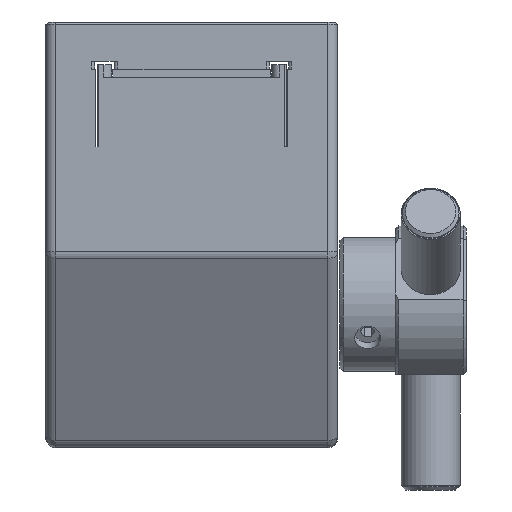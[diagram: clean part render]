
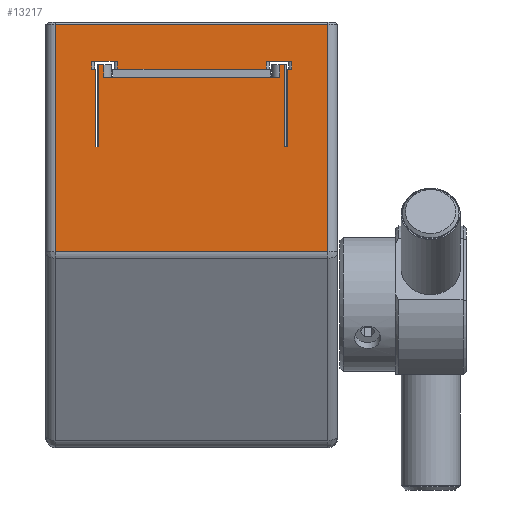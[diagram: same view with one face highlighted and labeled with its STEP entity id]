
A CAD part, left-side view. The second image highlights one B-rep face of the part: STEP entity #13217.
In plain terms, the highlighted planar face has unit normal (-1, 0, 0).
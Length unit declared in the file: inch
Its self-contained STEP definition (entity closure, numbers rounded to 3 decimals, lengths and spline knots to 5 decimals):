
#3293=CARTESIAN_POINT('',(-20.43573,78.2955,85.63033));
#3294=VERTEX_POINT('',#3293);
#3359=CARTESIAN_POINT('',(-20.43573,76.5705,85.63033));
#3360=VERTEX_POINT('',#3359);
#3376=CARTESIAN_POINT('',(-20.43573,78.2955,85.63033));
#3377=DIRECTION('',(0.0,-1.0,0.0));
#3378=VECTOR('',#3377,1.725);
#3379=LINE('',#3376,#3378);
#3380=EDGE_CURVE('',#3294,#3360,#3379,.T.);
#3598=CARTESIAN_POINT('',(-20.43573,78.068,85.34533));
#3599=VERTEX_POINT('',#3598);
#3608=CARTESIAN_POINT('',(-20.43573,78.068,85.39533));
#3609=VERTEX_POINT('',#3608);
#3617=CARTESIAN_POINT('',(-20.43573,78.068,85.39533));
#3618=DIRECTION('',(0.0,0.0,-1.0));
#3619=VECTOR('',#3618,0.05);
#3620=LINE('',#3617,#3619);
#3621=EDGE_CURVE('',#3609,#3599,#3620,.T.);
#3633=CARTESIAN_POINT('',(-20.43573,77.9055,85.34533));
#3634=VERTEX_POINT('',#3633);
#3642=CARTESIAN_POINT('',(-20.43573,77.9055,85.39533));
#3643=VERTEX_POINT('',#3642);
#3644=CARTESIAN_POINT('',(-20.43573,77.9055,85.34533));
#3645=DIRECTION('',(0.0,0.0,1.0));
#3646=VECTOR('',#3645,0.05);
#3647=LINE('',#3644,#3646);
#3648=EDGE_CURVE('',#3634,#3643,#3647,.T.);
#3695=CARTESIAN_POINT('',(-20.43573,76.798,85.34533));
#3696=VERTEX_POINT('',#3695);
#3706=CARTESIAN_POINT('',(-20.43573,76.798,85.39533));
#3707=VERTEX_POINT('',#3706);
#3708=CARTESIAN_POINT('',(-20.43573,76.798,85.34533));
#3709=DIRECTION('',(0.0,0.0,1.0));
#3710=VECTOR('',#3709,0.05);
#3711=LINE('',#3708,#3710);
#3712=EDGE_CURVE('',#3696,#3707,#3711,.T.);
#3768=CARTESIAN_POINT('',(-20.43573,76.9605,85.34533));
#3769=VERTEX_POINT('',#3768);
#3787=CARTESIAN_POINT('',(-20.43573,76.9605,85.39533));
#3788=VERTEX_POINT('',#3787);
#3796=CARTESIAN_POINT('',(-20.43573,76.9605,85.39533));
#3797=DIRECTION('',(0.0,0.0,-1.0));
#3798=VECTOR('',#3797,0.05);
#3799=LINE('',#3796,#3798);
#3800=EDGE_CURVE('',#3788,#3769,#3799,.T.);
#3907=CARTESIAN_POINT('',(-20.43573,77.9055,85.39533));
#3908=DIRECTION('',(0.0,1.0,0.0));
#3909=VECTOR('',#3908,0.1625);
#3910=LINE('',#3907,#3909);
#3911=EDGE_CURVE('',#3643,#3609,#3910,.T.);
#3942=CARTESIAN_POINT('',(-20.43573,76.798,85.39533));
#3943=DIRECTION('',(0.0,1.0,0.0));
#3944=VECTOR('',#3943,0.1625);
#3945=LINE('',#3942,#3944);
#3946=EDGE_CURVE('',#3707,#3788,#3945,.T.);
#3969=CARTESIAN_POINT('',(-20.43573,77.9055,85.34533));
#3970=DIRECTION('',(0.0,-1.0,0.0));
#3971=VECTOR('',#3970,0.945);
#3972=LINE('',#3969,#3971);
#3973=EDGE_CURVE('',#3634,#3769,#3972,.T.);
#4091=CARTESIAN_POINT('',(-20.43573,76.8255,85.34533));
#4092=VERTEX_POINT('',#4091);
#4099=CARTESIAN_POINT('',(-20.43573,76.798,85.34533));
#4100=DIRECTION('',(0.0,1.0,0.0));
#4101=VECTOR('',#4100,0.0275);
#4102=LINE('',#4099,#4101);
#4103=EDGE_CURVE('',#3696,#4092,#4102,.T.);
#11225=CARTESIAN_POINT('',(-20.43573,76.843,84.85533));
#11226=VERTEX_POINT('',#11225);
#11234=CARTESIAN_POINT('',(-20.43573,76.8255,84.85533));
#11235=VERTEX_POINT('',#11234);
#11236=CARTESIAN_POINT('',(-20.43573,76.843,84.85533));
#11237=DIRECTION('',(0.0,-1.0,0.0));
#11238=VECTOR('',#11237,0.0175);
#11239=LINE('',#11236,#11238);
#11240=EDGE_CURVE('',#11226,#11235,#11239,.T.);
#11399=CARTESIAN_POINT('',(-20.43573,78.023,84.85533));
#11400=VERTEX_POINT('',#11399);
#11553=CARTESIAN_POINT('',(-20.43573,78.0405,84.85533));
#11554=VERTEX_POINT('',#11553);
#11561=CARTESIAN_POINT('',(-20.43573,78.0405,84.85533));
#11562=DIRECTION('',(0.0,-1.0,0.0));
#11563=VECTOR('',#11562,0.0175);
#11564=LINE('',#11561,#11563);
#11565=EDGE_CURVE('',#11554,#11400,#11564,.T.);
#11598=CARTESIAN_POINT('',(-20.43573,76.8255,85.34533));
#11599=DIRECTION('',(0.0,0.0,-1.0));
#11600=VECTOR('',#11599,0.49);
#11601=LINE('',#11598,#11600);
#11602=EDGE_CURVE('',#4092,#11235,#11601,.T.);
#11692=CARTESIAN_POINT('',(-20.43573,78.0405,85.34533));
#11693=VERTEX_POINT('',#11692);
#11700=CARTESIAN_POINT('',(-20.43573,78.0405,84.85533));
#11701=DIRECTION('',(0.0,0.0,1.0));
#11702=VECTOR('',#11701,0.49);
#11703=LINE('',#11700,#11702);
#11704=EDGE_CURVE('',#11554,#11693,#11703,.T.);
#11717=CARTESIAN_POINT('',(-20.43573,78.0405,85.34533));
#11718=DIRECTION('',(0.0,1.0,0.0));
#11719=VECTOR('',#11718,0.0275);
#11720=LINE('',#11717,#11719);
#11721=EDGE_CURVE('',#11693,#3599,#11720,.T.);
#11743=CARTESIAN_POINT('',(-20.43573,78.2955,84.19024));
#11744=VERTEX_POINT('',#11743);
#11752=CARTESIAN_POINT('',(-20.43573,78.2955,84.19024));
#11753=DIRECTION('',(0.0,0.0,1.0));
#11754=VECTOR('',#11753,1.44009);
#11755=LINE('',#11752,#11754);
#11756=EDGE_CURVE('',#11744,#3294,#11755,.T.);
#12071=CARTESIAN_POINT('',(-20.43573,76.5705,84.19024));
#12072=VERTEX_POINT('',#12071);
#12073=CARTESIAN_POINT('',(-20.43573,76.5705,85.63033));
#12074=DIRECTION('',(0.0,0.0,-1.0));
#12075=VECTOR('',#12074,1.44009);
#12076=LINE('',#12073,#12075);
#12077=EDGE_CURVE('',#3360,#12072,#12076,.T.);
#12528=CARTESIAN_POINT('',(-20.43573,76.5705,84.19024));
#12529=DIRECTION('',(0.0,1.0,0.0));
#12530=VECTOR('',#12529,1.725);
#12531=LINE('',#12528,#12530);
#12532=EDGE_CURVE('',#12072,#11744,#12531,.T.);
#12839=CARTESIAN_POINT('',(-20.43573,76.843,85.37533));
#12840=VERTEX_POINT('',#12839);
#12841=CARTESIAN_POINT('',(-20.43573,76.8755,85.37533));
#12842=VERTEX_POINT('',#12841);
#12843=CARTESIAN_POINT('',(-20.43573,76.843,85.37533));
#12844=DIRECTION('',(0.0,1.0,0.0));
#12845=VECTOR('',#12844,0.0325);
#12846=LINE('',#12843,#12845);
#12847=EDGE_CURVE('',#12840,#12842,#12846,.T.);
#12925=CARTESIAN_POINT('',(-20.43573,78.023,85.37533));
#12926=VERTEX_POINT('',#12925);
#12934=CARTESIAN_POINT('',(-20.43573,77.9905,85.37533));
#12935=VERTEX_POINT('',#12934);
#12936=CARTESIAN_POINT('',(-20.43573,77.9905,85.37533));
#12937=DIRECTION('',(0.0,1.0,0.0));
#12938=VECTOR('',#12937,0.0325);
#12939=LINE('',#12936,#12938);
#12940=EDGE_CURVE('',#12935,#12926,#12939,.T.);
#13143=CARTESIAN_POINT('',(-20.43573,76.843,84.85533));
#13144=DIRECTION('',(0.0,0.0,1.0));
#13145=VECTOR('',#13144,0.52);
#13146=LINE('',#13143,#13145);
#13147=EDGE_CURVE('',#11226,#12840,#13146,.T.);
#13160=CARTESIAN_POINT('',(-20.43573,77.433,85.18533));
#13161=DIRECTION('',(1.0,0.0,0.0));
#13162=DIRECTION('',(0.0,-1.0,0.0));
#13163=AXIS2_PLACEMENT_3D('',#13160,#13161,#13162);
#13164=PLANE('',#13163);
#13165=ORIENTED_EDGE('',*,*,#11756,.F.);
#13166=ORIENTED_EDGE('',*,*,#12532,.F.);
#13167=ORIENTED_EDGE('',*,*,#12077,.F.);
#13168=ORIENTED_EDGE('',*,*,#3380,.F.);
#13169=EDGE_LOOP('',(#13165,#13166,#13167,#13168));
#13170=FACE_OUTER_BOUND('',#13169,.T.);
#13171=ORIENTED_EDGE('',*,*,#3621,.F.);
#13172=ORIENTED_EDGE('',*,*,#3911,.F.);
#13173=ORIENTED_EDGE('',*,*,#3648,.F.);
#13174=ORIENTED_EDGE('',*,*,#3973,.T.);
#13175=ORIENTED_EDGE('',*,*,#3800,.F.);
#13176=ORIENTED_EDGE('',*,*,#3946,.F.);
#13177=ORIENTED_EDGE('',*,*,#3712,.F.);
#13178=ORIENTED_EDGE('',*,*,#4103,.T.);
#13179=ORIENTED_EDGE('',*,*,#11602,.T.);
#13180=ORIENTED_EDGE('',*,*,#11240,.F.);
#13181=ORIENTED_EDGE('',*,*,#13147,.T.);
#13182=ORIENTED_EDGE('',*,*,#12847,.T.);
#13183=CARTESIAN_POINT('',(-20.43573,76.8755,85.29533));
#13184=VERTEX_POINT('',#13183);
#13185=CARTESIAN_POINT('',(-20.43573,76.8755,85.29533));
#13186=DIRECTION('',(0.0,0.0,1.0));
#13187=VECTOR('',#13186,0.08);
#13188=LINE('',#13185,#13187);
#13189=EDGE_CURVE('',#13184,#12842,#13188,.T.);
#13190=ORIENTED_EDGE('',*,*,#13189,.F.);
#13191=CARTESIAN_POINT('',(-20.43573,77.9905,85.29533));
#13192=VERTEX_POINT('',#13191);
#13193=CARTESIAN_POINT('',(-20.43573,77.9905,85.29533));
#13194=DIRECTION('',(0.0,-1.0,0.0));
#13195=VECTOR('',#13194,1.115);
#13196=LINE('',#13193,#13195);
#13197=EDGE_CURVE('',#13192,#13184,#13196,.T.);
#13198=ORIENTED_EDGE('',*,*,#13197,.F.);
#13199=CARTESIAN_POINT('',(-20.43573,77.9905,85.37533));
#13200=DIRECTION('',(0.0,0.0,-1.0));
#13201=VECTOR('',#13200,0.08);
#13202=LINE('',#13199,#13201);
#13203=EDGE_CURVE('',#12935,#13192,#13202,.T.);
#13204=ORIENTED_EDGE('',*,*,#13203,.F.);
#13205=ORIENTED_EDGE('',*,*,#12940,.T.);
#13206=CARTESIAN_POINT('',(-20.43573,78.023,85.37533));
#13207=DIRECTION('',(0.0,0.0,-1.0));
#13208=VECTOR('',#13207,0.52);
#13209=LINE('',#13206,#13208);
#13210=EDGE_CURVE('',#12926,#11400,#13209,.T.);
#13211=ORIENTED_EDGE('',*,*,#13210,.T.);
#13212=ORIENTED_EDGE('',*,*,#11565,.F.);
#13213=ORIENTED_EDGE('',*,*,#11704,.T.);
#13214=ORIENTED_EDGE('',*,*,#11721,.T.);
#13215=EDGE_LOOP('',(#13171,#13172,#13173,#13174,#13175,#13176,#13177,#13178,#13179,#13180,#13181,#13182,#13190,#13198,#13204,#13205,#13211,#13212,#13213,#13214));
#13216=FACE_BOUND('',#13215,.T.);
#13217=ADVANCED_FACE('',(#13170,#13216),#13164,.F.);
